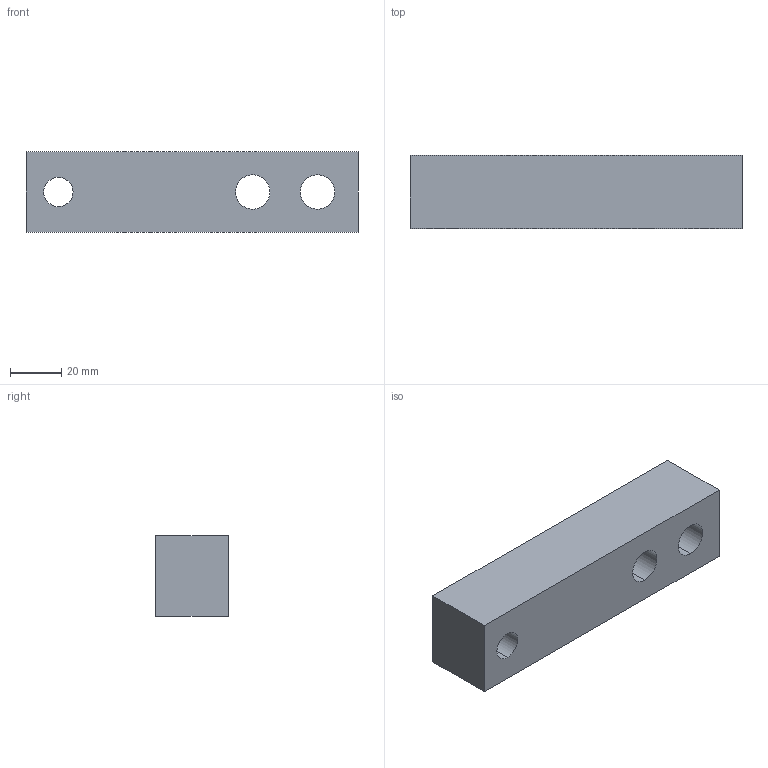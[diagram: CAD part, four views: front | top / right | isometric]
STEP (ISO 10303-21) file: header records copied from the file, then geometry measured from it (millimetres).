
FILE_DESCRIPTION (( 'STEP AP214' ), '1' );
FILE_NAME ('SS6300-5KLB.STEP', '2024-09-10T15:29:05', ( '' ), ( '' ), 'SwSTEP 2.0', 'SolidWorks 2008', '' );
FILE_SCHEMA (( 'AUTOMOTIVE_DESIGN' ));
Length unit declared in the file: inch
Products named in the file (1): SS6300-5KLB
Bounding box: 130.18 x 28.57 x 31.75 mm (x, y, z)
Volume: 106961.9 mm3; surface area: 20183.5 mm2
Topology: 1 solids, 1 shells, 16 faces, 38 edges, 24 vertices
Faces by surface type: cylinder 6, plane 6, cone 4
Entity records: 531 total; most frequent: DIRECTION 88, CARTESIAN_POINT 79, ORIENTED_EDGE 76, EDGE_CURVE 38, AXIS2_PLACEMENT_3D 33, VERTEX_POINT 24, EDGE_LOOP 22, LINE 22
